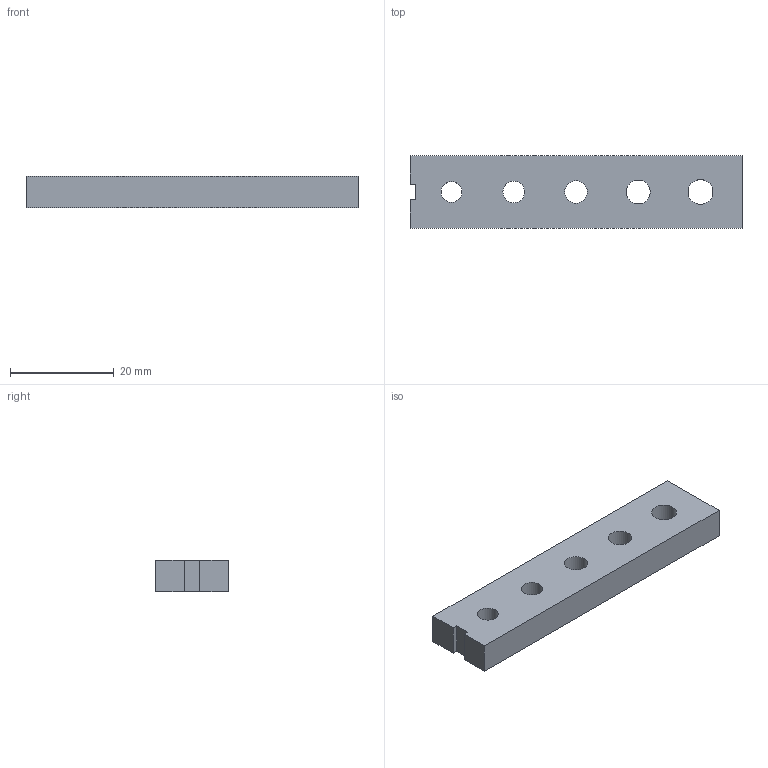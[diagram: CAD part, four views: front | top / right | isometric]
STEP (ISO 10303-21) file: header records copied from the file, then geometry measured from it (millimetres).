
FILE_DESCRIPTION(('Open CASCADE Model'),'2;1');
FILE_NAME('Open CASCADE Shape Model','2026-09-25T05:27:18',('Author'),( 'Open CASCADE'),'Open CASCADE STEP processor 7.8','Open CASCADE 7.8' ,'Unknown');
FILE_SCHEMA(('AUTOMOTIVE_DESIGN { 1 0 10303 214 1 1 1 1 }'));
Length unit declared in the file: millimetre
Products named in the file (1): Open CASCADE STEP translator 7.8 1
Bounding box: 64 x 14 x 6 mm (x, y, z)
Volume: 4900 mm3; surface area: 2996 mm2
Topology: 1 solids, 1 shells, 15 faces, 39 edges, 26 vertices
Faces by surface type: plane 10, cylinder 5
Full cylindrical faces by diameter (mm): 4 x1, 4.2 x1, 4.4 x1, 4.6 x1, 4.8 x1
Entity records: 984 total; most frequent: CARTESIAN_POINT 175, DIRECTION 143, LINE 81, VECTOR 81, ORIENTED_EDGE 78, PCURVE 78, DEFINITIONAL_REPRESENTATION 78, EDGE_CURVE 39
